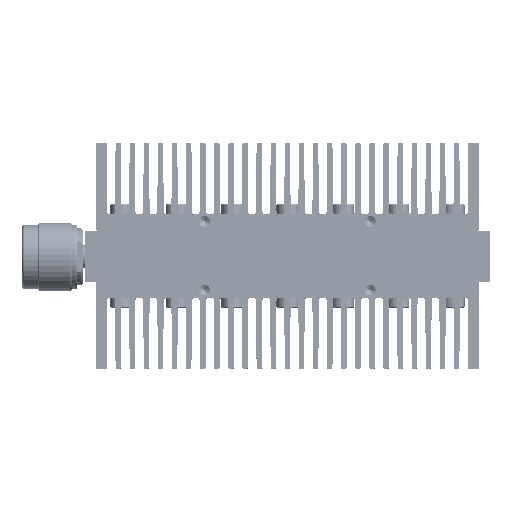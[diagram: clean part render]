
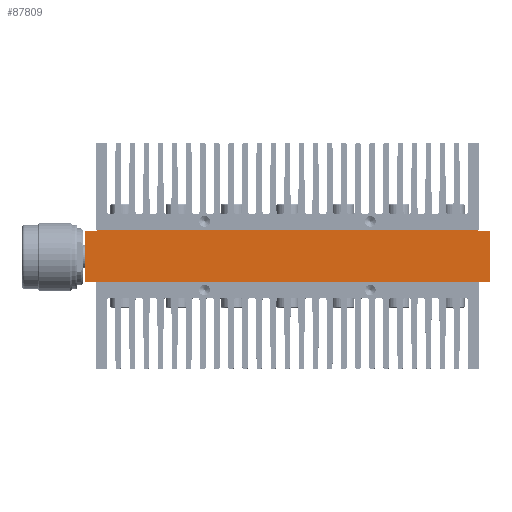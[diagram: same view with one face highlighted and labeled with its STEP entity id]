
A CAD part, top view. The second image highlights one B-rep face of the part: STEP entity #87809.
In plain terms, the highlighted planar face has unit normal (0, 0, 1).
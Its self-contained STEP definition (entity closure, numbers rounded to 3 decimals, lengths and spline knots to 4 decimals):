
#1603=PLANE('',#91831);
#2177=LINE('',#123114,#5291);
#3520=LINE('',#127112,#6634);
#3522=LINE('',#127117,#6636);
#3699=LINE('',#128552,#6813);
#3709=LINE('',#128579,#6823);
#3712=LINE('',#128595,#6826);
#3722=LINE('',#128660,#6836);
#3725=LINE('',#128688,#6839);
#3732=LINE('',#128726,#6846);
#3733=LINE('',#128727,#6847);
#5291=VECTOR('',#94434,39.3701);
#6634=VECTOR('',#98411,39.3701);
#6636=VECTOR('',#98415,39.3701);
#6813=VECTOR('',#99496,39.3701);
#6823=VECTOR('',#99516,39.3701);
#6826=VECTOR('',#99541,39.3701);
#6836=VECTOR('',#99565,39.3701);
#6839=VECTOR('',#99574,39.3701);
#6846=VECTOR('',#99591,39.3701);
#6847=VECTOR('',#99592,39.3701);
#17284=ORIENTED_EDGE('',*,*,#35357,.T.);
#17285=ORIENTED_EDGE('',*,*,#35371,.T.);
#17286=ORIENTED_EDGE('',*,*,#35349,.T.);
#17287=ORIENTED_EDGE('',*,*,#35319,.F.);
#17288=ORIENTED_EDGE('',*,*,#35372,.F.);
#17289=ORIENTED_EDGE('',*,*,#34875,.F.);
#17290=ORIENTED_EDGE('',*,*,#32878,.F.);
#17291=ORIENTED_EDGE('',*,*,#34877,.T.);
#17292=ORIENTED_EDGE('',*,*,#35327,.F.);
#17293=ORIENTED_EDGE('',*,*,#35306,.T.);
#32878=EDGE_CURVE('',#43294,#43295,#2177,.T.);
#34875=EDGE_CURVE('',#43295,#44631,#3520,.T.);
#34877=EDGE_CURVE('',#43294,#44634,#3522,.T.);
#35306=EDGE_CURVE('',#44861,#44860,#3699,.T.);
#35319=EDGE_CURVE('',#44872,#44869,#3709,.T.);
#35327=EDGE_CURVE('',#44861,#44634,#3712,.T.);
#35349=EDGE_CURVE('',#44886,#44869,#3722,.T.);
#35357=EDGE_CURVE('',#44860,#44902,#3725,.T.);
#35371=EDGE_CURVE('',#44902,#44886,#3732,.T.);
#35372=EDGE_CURVE('',#44631,#44872,#3733,.T.);
#43294=VERTEX_POINT('',#123113);
#43295=VERTEX_POINT('',#123115);
#44631=VERTEX_POINT('',#127107);
#44634=VERTEX_POINT('',#127116);
#44860=VERTEX_POINT('',#128551);
#44861=VERTEX_POINT('',#128553);
#44869=VERTEX_POINT('',#128573);
#44872=VERTEX_POINT('',#128578);
#44886=VERTEX_POINT('',#128642);
#44902=VERTEX_POINT('',#128687);
#57001=EDGE_LOOP('',(#17284,#17285,#17286,#17287,#17288,#17289,#17290,#17291,
#17292,#17293));
#60663=FACE_BOUND('',#57001,.T.);
#87809=ADVANCED_FACE('',(#60663),#1603,.F.);
#91831=AXIS2_PLACEMENT_3D('',#128725,#99589,#99590);
#94434=DIRECTION('',(1.,0.,0.));
#98411=DIRECTION('',(0.,-1.,0.));
#98415=DIRECTION('',(0.,-1.,0.));
#99496=DIRECTION('',(0.,-1.,0.));
#99516=DIRECTION('',(0.,-1.,0.));
#99541=DIRECTION('',(1.,0.,0.));
#99565=DIRECTION('',(1.,0.,0.));
#99574=DIRECTION('',(1.,0.,0.));
#99589=DIRECTION('',(0.,0.,-1.));
#99590=DIRECTION('',(-1.,0.,0.));
#99591=DIRECTION('',(1.,0.,0.));
#99592=DIRECTION('',(1.,0.,0.));
#123113=CARTESIAN_POINT('',(-2.3,0.63,1.));
#123114=CARTESIAN_POINT('',(-2.3,0.63,1.));
#123115=CARTESIAN_POINT('',(2.3,0.63,1.));
#127107=CARTESIAN_POINT('',(2.3,0.61,1.));
#127112=CARTESIAN_POINT('',(2.3,0.63,1.));
#127116=CARTESIAN_POINT('',(-2.3,0.61,1.));
#127117=CARTESIAN_POINT('',(-2.3,0.63,1.));
#128551=CARTESIAN_POINT('',(-2.445,0.,1.));
#128552=CARTESIAN_POINT('',(-2.445,0.61,1.));
#128553=CARTESIAN_POINT('',(-2.445,0.61,1.));
#128573=CARTESIAN_POINT('',(2.445,0.,1.));
#128578=CARTESIAN_POINT('',(2.445,0.61,1.));
#128579=CARTESIAN_POINT('',(2.445,0.61,1.));
#128595=CARTESIAN_POINT('',(-2.445,0.61,1.));
#128642=CARTESIAN_POINT('',(2.31,0.,1.));
#128660=CARTESIAN_POINT('',(-2.445,0.,1.));
#128687=CARTESIAN_POINT('',(-2.31,0.,1.));
#128688=CARTESIAN_POINT('',(-2.445,0.,1.));
#128725=CARTESIAN_POINT('',(-2.445,0.61,1.));
#128726=CARTESIAN_POINT('',(-2.445,0.,1.));
#128727=CARTESIAN_POINT('',(-2.445,0.61,1.));
